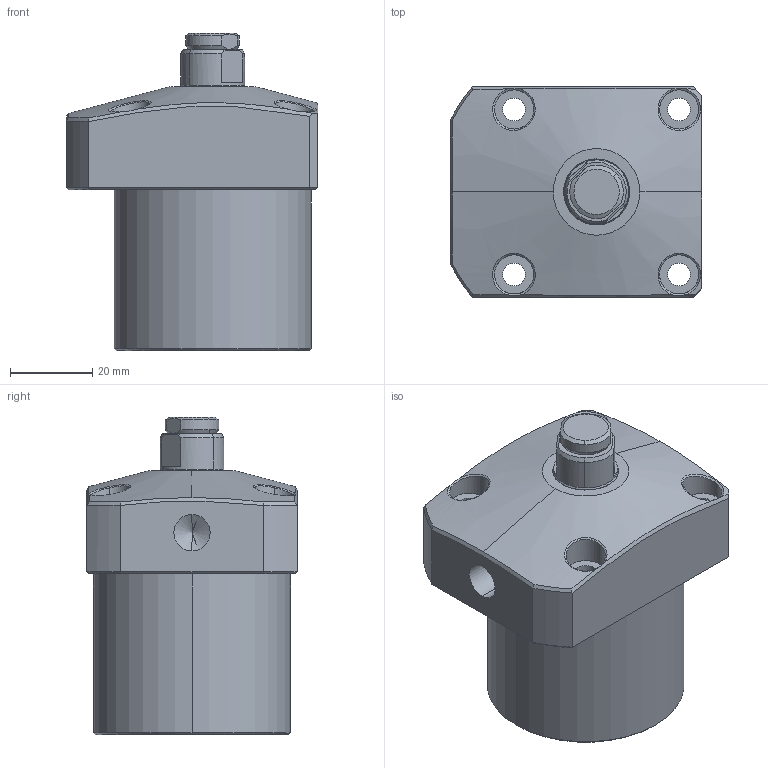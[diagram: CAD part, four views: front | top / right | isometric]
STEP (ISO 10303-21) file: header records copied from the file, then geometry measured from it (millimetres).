
FILE_DESCRIPTION (( 'STEP AP214' ), '1' );
FILE_NAME ('FW10-0482.STEP', '2020-08-06T11:17:01', ( '' ), ( '' ), 'SwSTEP 2.0', 'SolidWorks 2019', '' );
FILE_SCHEMA (( 'AUTOMOTIVE_DESIGN' ));
Length unit declared in the file: millimetre
Products named in the file (4): FW10-482-PLUNGER; FW10-0482; FW10-0482-BODY; 48-PAD
Assembly tree (3 placements, depth 2):
  FW10-0482
    FW10-0482-BODY
    FW10-482-PLUNGER
    48-PAD
Bounding box: 61 x 51 x 77 mm (x, y, z)
Volume: 133278.7 mm3; surface area: 23702 mm2
Topology: 3 solids, 3 shells, 122 faces, 299 edges, 186 vertices
Faces by surface type: cylinder 41, cone 35, plane 35, bspline 11
Entity records: 10833 total; most frequent: CARTESIAN_POINT 7861, ORIENTED_EDGE 590, DIRECTION 552, EDGE_CURVE 295, AXIS2_PLACEMENT_3D 224, VERTEX_POINT 186, EDGE_LOOP 137, ADVANCED_FACE 122
